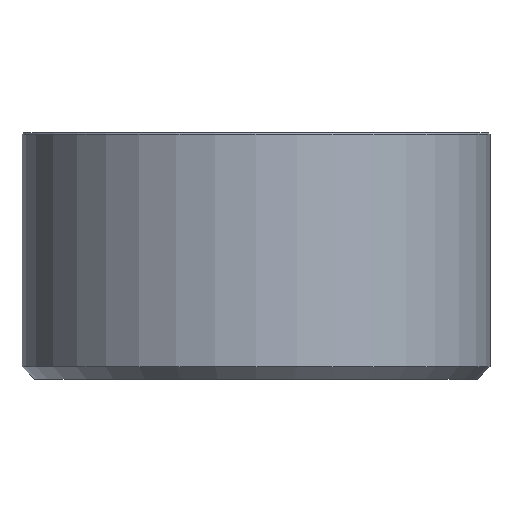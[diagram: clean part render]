
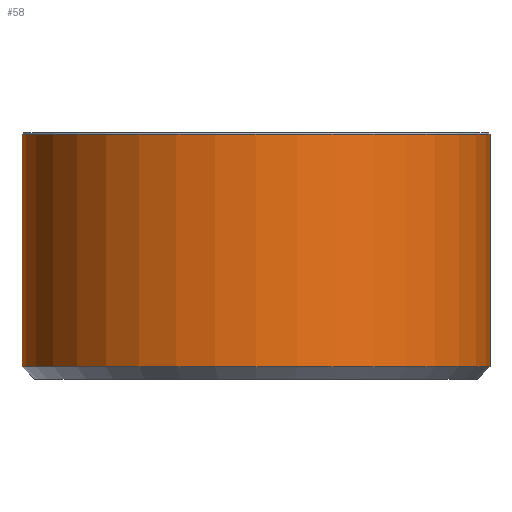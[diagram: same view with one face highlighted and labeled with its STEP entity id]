
A CAD part, front view. The second image highlights one B-rep face of the part: STEP entity #58.
In plain terms, the highlighted cylindrical face has radius 19 mm (diameter 38 mm), a full revolution.
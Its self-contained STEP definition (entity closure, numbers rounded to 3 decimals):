
#58=ADVANCED_FACE('',(#120,#121),#89,.T.);
#89=CYLINDRICAL_SURFACE('',#470,19.);
#120=FACE_BOUND('',#196,.T.);
#121=FACE_BOUND('',#197,.T.);
#196=EDGE_LOOP('',(#272));
#197=EDGE_LOOP('',(#273));
#272=ORIENTED_EDGE('',*,*,#386,.T.);
#273=ORIENTED_EDGE('',*,*,#387,.T.);
#348=VERTEX_POINT('',#706);
#349=VERTEX_POINT('',#708);
#386=EDGE_CURVE('',#348,#348,#424,.T.);
#387=EDGE_CURVE('',#349,#349,#425,.T.);
#424=CIRCLE('',#468,19.);
#425=CIRCLE('',#469,19.);
#468=AXIS2_PLACEMENT_3D('',#705,#565,#566);
#469=AXIS2_PLACEMENT_3D('',#707,#567,#568);
#470=AXIS2_PLACEMENT_3D('',#709,#569,#570);
#565=DIRECTION('',(0.,0.,-1.));
#566=DIRECTION('',(1.,0.,0.));
#567=DIRECTION('',(0.,0.,1.));
#568=DIRECTION('',(-1.,0.,0.));
#569=DIRECTION('',(0.,0.,1.));
#570=DIRECTION('',(1.,0.,0.));
#705=CARTESIAN_POINT('',(0.,0.,19.9));
#706=CARTESIAN_POINT('',(19.,0.,19.9));
#707=CARTESIAN_POINT('',(0.,0.,1.));
#708=CARTESIAN_POINT('',(-19.,0.,1.));
#709=CARTESIAN_POINT('',(0.,0.,0.));
